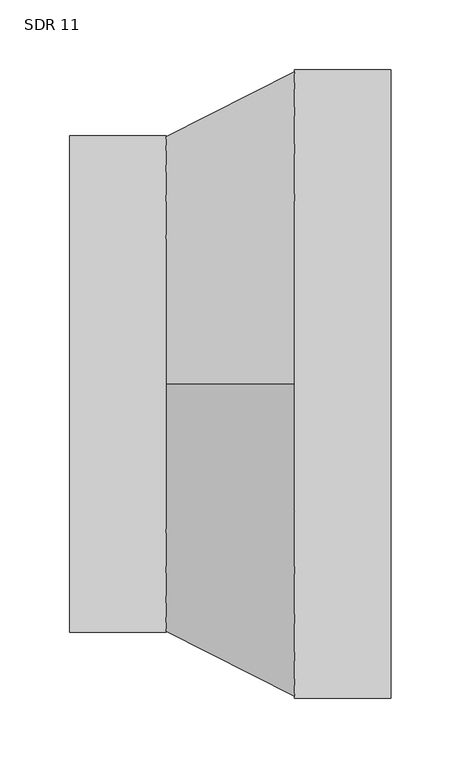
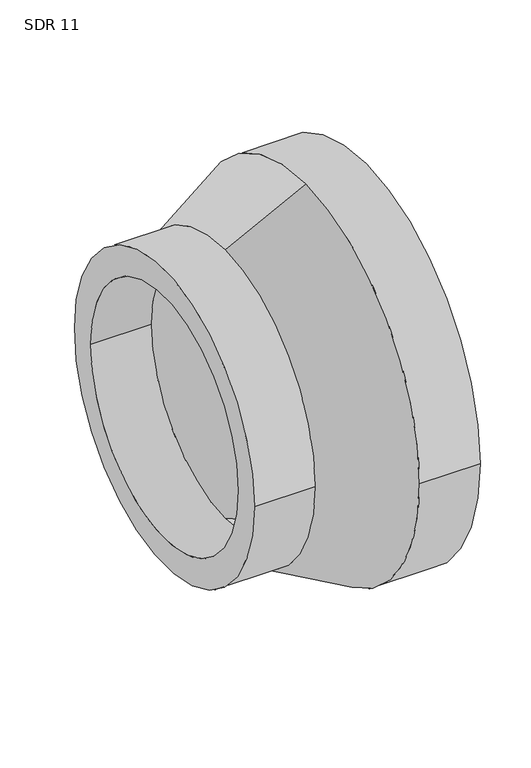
"""IFC4 building model written with IfcOpenShell, lengths in millimetres: pipe fitting geometry, Aquatherm - Reducing Coupling Combined - METRIC : SDR 11."""

from ifc_helpers import new_model, si_unit, frame, origin, place, context, project, spatial, polyline, circle_curve, source, transform, mapped, element, save
from ifc_brep_helpers import plane_surface, cylinder_surface, revolved_surface, advanced_brep


def sdr_11_03093cda(model_context):
    return source(origin(), model_context, "Body", "AdvancedBrep", [
        advanced_brep(
        [(-115.062, -177.8, 0.0), (-115.062, 177.8, 0.0), (-115.062, -145.4727273, 0.0), (-115.062, 145.4727273, 0.0), (-46.0248, 145.4727273, 0.0), (-46.0248, 0.0, 145.4727273), (-46.0248, -145.4727273, 0.0), (-46.0248, 0.0, -145.4727273), (-46.0248, 177.8, 0.0), (-46.0248, 0.0, -177.8), (-46.0248, -177.8, 0.0), (-46.0248, 0.0, 177.8), (115.062, -224.79, 0.0), (115.062, 224.79, 0.0), (115.062, -183.9190909, 0.0), (115.062, 183.9190909, 0.0), (46.0248, -224.79, 0.0), (46.0248, 0.0, -224.79), (46.0248, 224.79, 0.0), (46.0248, 0.0, 224.79), (46.0248, -183.9190909, 0.0), (46.0248, 0.0, 183.9190909), (46.0248, 183.9190909, 0.0), (46.0248, 0.0, -183.9190909)],
        [
            (0, 1, circle_curve(frame((-115.062, 0.0, 0.0), z_axis=(-1.0, 0.0, 0.0), x_axis=(0.0, 1.0, 0.0)), 177.8)),
            (1, 0, circle_curve(frame((-115.062, 0.0, 0.0), z_axis=(-1.0, 0.0, 0.0), x_axis=(0.0, 1.0, 0.0)), 177.8)),
            (2, 3, circle_curve(frame((-115.062, 0.0, 0.0), z_axis=(1.0, 0.0, 0.0), x_axis=(0.0, 1.0, 0.0)), 145.4727273)),
            (3, 2, circle_curve(frame((-115.062, 0.0, 0.0), z_axis=(1.0, 0.0, 0.0), x_axis=(0.0, 1.0, 0.0)), 145.4727273)),
            (3, 4),
            (4, 5, circle_curve(frame((-46.0248, 0.0, 0.0), z_axis=(1.0, 0.0, 0.0), x_axis=(0.0, 1.0, 0.0)), 145.4727273)),
            (5, 6, circle_curve(frame((-46.0248, 0.0, 0.0), z_axis=(1.0, 0.0, 0.0), x_axis=(0.0, 1.0, 0.0)), 145.4727273)),
            (6, 2),
            (6, 7, circle_curve(frame((-46.0248, 0.0, 0.0), z_axis=(1.0, 0.0, 0.0), x_axis=(0.0, 1.0, 0.0)), 145.4727273)),
            (7, 4, circle_curve(frame((-46.0248, 0.0, 0.0), z_axis=(1.0, 0.0, 0.0), x_axis=(0.0, 1.0, 0.0)), 145.4727273)),
            (1, 8),
            (8, 9, circle_curve(frame((-46.0248, 0.0, 0.0), z_axis=(-1.0, 0.0, 0.0), x_axis=(0.0, 1.0, 0.0)), 177.8)),
            (9, 10, circle_curve(frame((-46.0248, 0.0, 0.0), z_axis=(-1.0, 0.0, 0.0), x_axis=(0.0, 1.0, 0.0)), 177.8)),
            (10, 0),
            (10, 11, circle_curve(frame((-46.0248, 0.0, 0.0), z_axis=(-1.0, 0.0, 0.0), x_axis=(0.0, 1.0, 0.0)), 177.8)),
            (11, 8, circle_curve(frame((-46.0248, 0.0, 0.0), z_axis=(-1.0, 0.0, 0.0), x_axis=(0.0, 1.0, 0.0)), 177.8)),
            (12, 13, circle_curve(frame((115.062, 0.0, 0.0), z_axis=(1.0, 0.0, 0.0), x_axis=(0.0, 1.0, 0.0)), 224.79)),
            (13, 12, circle_curve(frame((115.062, 0.0, 0.0), z_axis=(1.0, 0.0, 0.0), x_axis=(0.0, 1.0, 0.0)), 224.79)),
            (14, 15, circle_curve(frame((115.062, 0.0, 0.0), z_axis=(-1.0, 0.0, 0.0), x_axis=(0.0, 1.0, 0.0)), 183.9190909)),
            (15, 14, circle_curve(frame((115.062, 0.0, 0.0), z_axis=(-1.0, 0.0, 0.0), x_axis=(0.0, 1.0, 0.0)), 183.9190909)),
            (12, 16),
            (16, 17, circle_curve(frame((46.0248, 0.0, 0.0), z_axis=(1.0, 0.0, 0.0), x_axis=(0.0, 1.0, 0.0)), 224.79)),
            (17, 18, circle_curve(frame((46.0248, 0.0, 0.0), z_axis=(1.0, 0.0, 0.0), x_axis=(0.0, 1.0, 0.0)), 224.79)),
            (18, 13),
            (18, 19, circle_curve(frame((46.0248, 0.0, 0.0), z_axis=(1.0, 0.0, 0.0), x_axis=(0.0, 1.0, 0.0)), 224.79)),
            (19, 16, circle_curve(frame((46.0248, 0.0, 0.0), z_axis=(1.0, 0.0, 0.0), x_axis=(0.0, 1.0, 0.0)), 224.79)),
            (14, 20),
            (20, 21, circle_curve(frame((46.0248, 0.0, 0.0), z_axis=(-1.0, 0.0, 0.0), x_axis=(0.0, 1.0, 0.0)), 183.9190909)),
            (21, 22, circle_curve(frame((46.0248, 0.0, 0.0), z_axis=(-1.0, 0.0, 0.0), x_axis=(0.0, 1.0, 0.0)), 183.9190909)),
            (22, 15),
            (22, 23, circle_curve(frame((46.0248, 0.0, 0.0), z_axis=(-1.0, 0.0, 0.0), x_axis=(0.0, 1.0, 0.0)), 183.9190909)),
            (23, 20, circle_curve(frame((46.0248, 0.0, 0.0), z_axis=(-1.0, 0.0, 0.0), x_axis=(0.0, 1.0, 0.0)), 183.9190909)),
            (11, 19),
            (17, 9),
            (21, 5),
            (7, 23),
        ],
        [
            plane_surface(frame((-115.062, 145.4727273, 0.0), z_axis=(-1.0, 0.0, 0.0), x_axis=(0.0, 0.0, 1.0))),
            revolved_surface(polyline([(-115.062, 145.4727273, 0.0), (-46.0248, 145.4727273, 0.0)]), (-115.062, 0.0, 0.0), (-1.0, 0.0, 0.0)),
            cylinder_surface(frame((0.0, 0.0, 0.0), z_axis=(1.0, 0.0, 0.0), x_axis=(0.0, 1.0, 0.0)), 177.8),
            plane_surface(frame((115.062, 224.79, 0.0), z_axis=(1.0, 0.0, 0.0), x_axis=(0.0, 0.0, 1.0))),
            cylinder_surface(frame((46.0248, 0.0, 0.0), z_axis=(1.0, 0.0, 0.0), x_axis=(0.0, 1.0, 0.0)), 224.79),
            revolved_surface(polyline([(46.0248, 183.9190909, 0.0), (115.062, 183.9190909, 0.0)]), (0.0, 0.0, 0.0), (-1.0, 0.0, 0.0)),
            revolved_surface(polyline([(46.0248, 0.0, 224.79), (-46.0248, 0.0, 177.8)]), (-690.3215384, 0.0, 0.0), (-1.0, 0.0, 0.0)),
            revolved_surface(polyline([(-46.0248, 0.0, 145.4727273), (46.0248, 0.0, 183.9190909)]), (-690.3215384, 0.0, 0.0), (-1.0, 0.0, 0.0)),
        ],
        [
            (0, [[1, 2], [3, 4]]),
            (1, [[-4, 5, 6, 7, 8]]),
            (1, [[-3, -8, 9, 10, -5]]),
            (2, [[-2, 11, 12, 13, 14]]),
            (2, [[-1, -14, 15, 16, -11]]),
            (3, [[17, 18], [19, 20]]),
            (4, [[-17, 21, 22, 23, 24]]),
            (4, [[-18, -24, 25, 26, -21]]),
            (5, [[-19, 27, 28, 29, 30]]),
            (5, [[-20, -30, 31, 32, -27]]),
            (6, [[33, -25, -23, 34, -12, -16]]),
            (6, [[-33, -15, -13, -34, -22, -26]]),
            (7, [[35, -6, -10, 36, -31, -29]]),
            (7, [[-35, -28, -32, -36, -9, -7]]),
        ],
    ),
    ])


if __name__ == "__main__":
    model = new_model("IFC4")
    model_context = context("Model", 3, world=origin())
    ifc_project = project(units=[si_unit("LENGTHUNIT", "METRE", prefix="MILLI")], contexts=[model_context])
    site = spatial("IfcSite", under=ifc_project)
    building = spatial("IfcBuilding", under=site)
    placement = place(None, origin())
    sdr_11_shape = sdr_11_03093cda(model_context)
    element("IfcPipeFitting", 1, ObjectType="Aquatherm - Reducing Coupling Combined - METRIC : SDR 11", at=placement, inside=building, context=model_context, shape_type="MappedRepresentation", body=[
        mapped(sdr_11_shape, transform((0.0, 0.0, 0.0), x_axis=(1.0, 0.0, 0.0), y_axis=(0.0, 1.0, 0.0), z_axis=(0.0, 0.0, 1.0))),
    ])
    save(model, "model.ifc")
